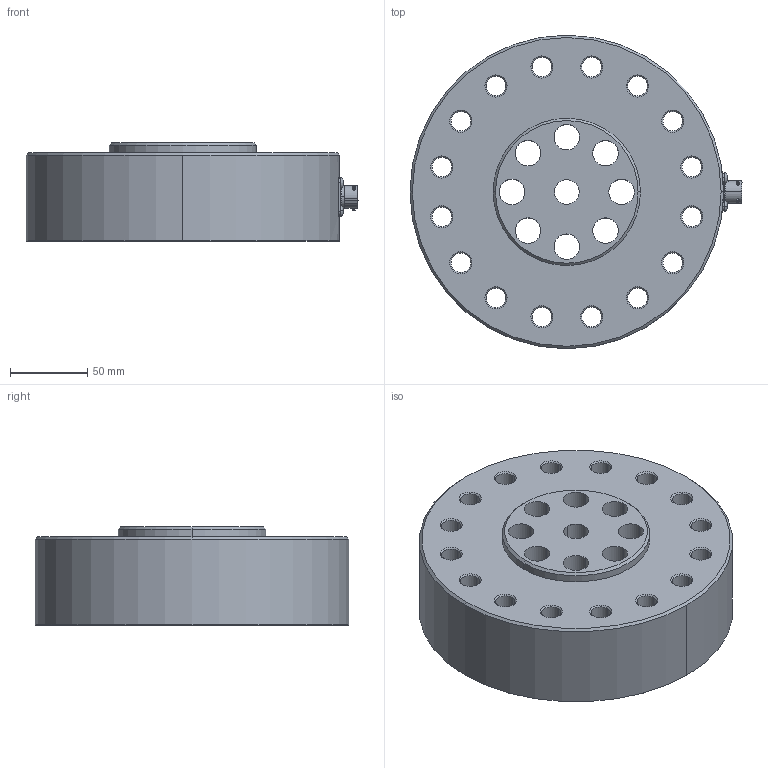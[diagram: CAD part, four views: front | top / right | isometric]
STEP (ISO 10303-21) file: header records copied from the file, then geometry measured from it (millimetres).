
FILE_DESCRIPTION (( 'STEP AP203' ), '1' );
FILE_NAME ('Interface 1238-250KN.STEP', '2011-06-20T22:19:47', ( ' ' ), ( '' ), 'SwSTEP 2.0', 'SolidWorks 2002349', '' );
FILE_SCHEMA (( 'CONFIG_CONTROL_DESIGN' ));
Length unit declared in the file: inch
Products named in the file (1): Interface 1238-250KN
Bounding box: 215.12 x 203.15 x 63.5 mm (x, y, z)
Volume: 1645175.6 mm3; surface area: 162177 mm2
Topology: 1 solids, 1 shells, 287 faces, 690 edges, 436 vertices
Faces by surface type: cylinder 121, plane 79, cone 62, bspline 25
Entity records: 9339 total; most frequent: CARTESIAN_POINT 2559, DIRECTION 1419, ORIENTED_EDGE 1380, EDGE_CURVE 690, AXIS2_PLACEMENT_3D 572, VERTEX_POINT 436, EDGE_LOOP 368, CIRCLE 309
